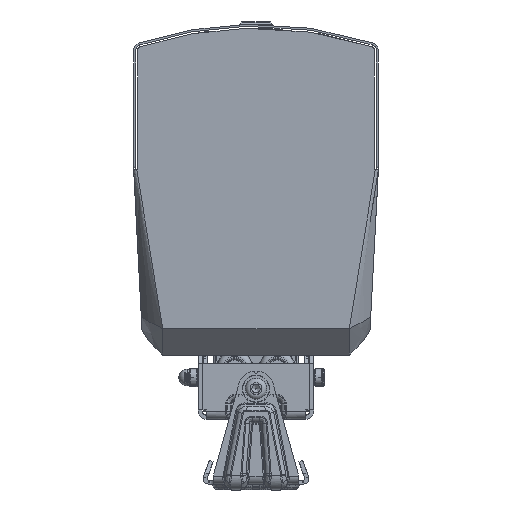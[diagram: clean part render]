
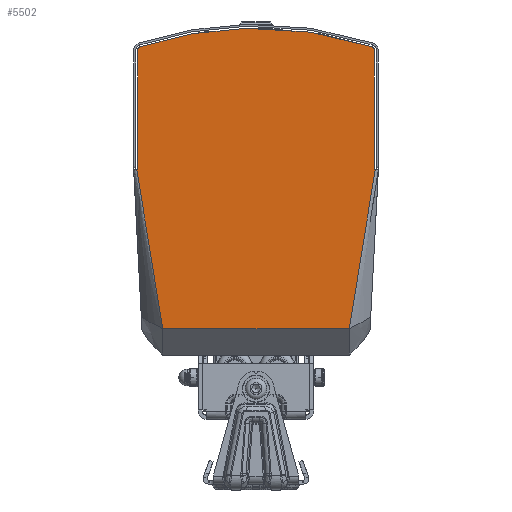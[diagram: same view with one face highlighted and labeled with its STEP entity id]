
A CAD part, front view. The second image highlights one B-rep face of the part: STEP entity #5502.
In plain terms, the highlighted planar face has unit normal (0, -0.999, -0.035).
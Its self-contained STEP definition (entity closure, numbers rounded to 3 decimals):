
#602 = DIRECTION ( 'NONE',  ( 0., 0.999, 0.035 ) ) ;
#847 = CARTESIAN_POINT ( 'NONE',  ( -87.436, -470.455, -130.151 ) ) ;
#1048 =( BOUNDED_CURVE ( )  B_SPLINE_CURVE ( 3, ( #73136, #79514, #8656, #34557 ),
 .UNSPECIFIED., .F., .T. ) 
 B_SPLINE_CURVE_WITH_KNOTS ( ( 4, 4 ),
 ( 1.571, 2.825 ),
 .UNSPECIFIED. ) 
 CURVE ( )  GEOMETRIC_REPRESENTATION_ITEM ( )  RATIONAL_B_SPLINE_CURVE ( ( 1., 0.873, 0.873, 1. ) ) 
 REPRESENTATION_ITEM ( '' )  );
#2238 = AXIS2_PLACEMENT_3D ( 'NONE', #71435, #602, #45585 ) ;
#2493 = ORIENTED_EDGE ( 'NONE', *, *, #74771, .F. ) ;
#4929 = VERTEX_POINT ( 'NONE', #11447 ) ;
#5502 = ADVANCED_FACE ( 'NONE', ( #78658 ), #71852, .F. ) ;
#5732 = CARTESIAN_POINT ( 'NONE',  ( -89.5, -474.35, -18.605 ) ) ;
#5956 = CARTESIAN_POINT ( 'NONE',  ( -77.958, -468.362, -190.098 ) ) ;
#6079 = VERTEX_POINT ( 'NONE', #61359 ) ;
#6258 = EDGE_CURVE ( 'NONE', #61121, #17034, #78612, .T. ) ;
#6328 = EDGE_CURVE ( 'NONE', #4929, #61121, #29349, .T. ) ;
#6792 = ORIENTED_EDGE ( 'NONE', *, *, #78260, .F. ) ;
#7836 = CARTESIAN_POINT ( 'NONE',  ( -30.061, -475.063, 1.8 ) ) ;
#8051 = VERTEX_POINT ( 'NONE', #49313 ) ;
#8073 = EDGE_CURVE ( 'NONE', #47333, #16000, #40109, .T. ) ;
#8654 = LINE ( 'NONE', #34555, #36024 ) ;
#8656 = CARTESIAN_POINT ( 'NONE',  ( 88.619, -474.393, -17.39 ) ) ;
#9510 = DIRECTION ( 'NONE',  ( 0., -0.035, 0.999 ) ) ;
#9670 = VECTOR ( 'NONE', #33837, 1000. ) ;
#9740 = CARTESIAN_POINT ( 'NONE',  ( -89.5, -471.159, -110. ) ) ;
#10075 = DIRECTION ( 'NONE',  ( 1., 0., 0. ) ) ;
#10860 = EDGE_CURVE ( 'NONE', #54740, #8051, #24430, .T. ) ;
#11251 = CARTESIAN_POINT ( 'NONE',  ( -87.193, -474.409, -16.922 ) ) ;
#11447 = CARTESIAN_POINT ( 'NONE',  ( 87.193, -474.409, -16.922 ) ) ;
#13002 = EDGE_CURVE ( 'NONE', #16000, #16768, #72406, .T. ) ;
#13132 = CARTESIAN_POINT ( 'NONE',  ( -70.5, -466.968, -230. ) ) ;
#15988 = LINE ( 'NONE', #74554, #83812 ) ;
#16000 = VERTEX_POINT ( 'NONE', #42198 ) ;
#16768 = VERTEX_POINT ( 'NONE', #22578 ) ;
#17034 = VERTEX_POINT ( 'NONE', #18242 ) ;
#18084 = ORIENTED_EDGE ( 'NONE', *, *, #6258, .T. ) ;
#18242 = CARTESIAN_POINT ( 'NONE',  ( -89.5, -474.298, -20.106 ) ) ;
#19154 = CARTESIAN_POINT ( 'NONE',  ( 78.271, -468.362, -190.097 ) ) ;
#19689 = CARTESIAN_POINT ( 'NONE',  ( 30.061, -475.063, 1.8 ) ) ;
#22578 = CARTESIAN_POINT ( 'NONE',  ( 70.5, -466.968, -230. ) ) ;
#24430 = LINE ( 'NONE', #32039, #65145 ) ;
#24794 = EDGE_LOOP ( 'NONE', ( #55104, #53279, #80677, #6792, #2493, #26798, #72129, #53497, #18084, #65511 ) ) ;
#25694 = EDGE_CURVE ( 'NONE', #35435, #17034, #8654, .T. ) ;
#26519 = CARTESIAN_POINT ( 'NONE',  ( -87.193, -474.409, -16.922 ) ) ;
#26798 = ORIENTED_EDGE ( 'NONE', *, *, #10860, .F. ) ;
#29349 =( BOUNDED_CURVE ( )  B_SPLINE_CURVE ( 3, ( #70615, #19689, #7836, #26519 ),
 .UNSPECIFIED., .F., .T. ) 
 B_SPLINE_CURVE_WITH_KNOTS ( ( 4, 4 ),
 ( 2.825, 3.458 ),
 .UNSPECIFIED. ) 
 CURVE ( )  GEOMETRIC_REPRESENTATION_ITEM ( )  RATIONAL_B_SPLINE_CURVE ( ( 1., 0.967, 0.967, 1. ) ) 
 REPRESENTATION_ITEM ( '' )  );
#31424 = CARTESIAN_POINT ( 'NONE',  ( -84.474, -469.755, -150.201 ) ) ;
#31517 = CARTESIAN_POINT ( 'NONE',  ( -90.1, -471.159, -110. ) ) ;
#32039 = CARTESIAN_POINT ( 'NONE',  ( 89.5, -471.297, -106.038 ) ) ;
#33501 = CARTESIAN_POINT ( 'NONE',  ( 89.5, -474.298, -20.106 ) ) ;
#33837 = DIRECTION ( 'NONE',  ( 1., 0., 0. ) ) ;
#34555 = CARTESIAN_POINT ( 'NONE',  ( -89.5, -471.297, -106.038 ) ) ;
#34557 = CARTESIAN_POINT ( 'NONE',  ( 87.193, -474.409, -16.922 ) ) ;
#35435 = VERTEX_POINT ( 'NONE', #9740 ) ;
#36024 = VECTOR ( 'NONE', #9510, 1000. ) ;
#37180 = EDGE_CURVE ( 'NONE', #54740, #4929, #1048, .T. ) ;
#39166 = LINE ( 'NONE', #50662, #68621 ) ;
#40109 = B_SPLINE_CURVE_WITH_KNOTS ( 'NONE', 3,
 ( #46249, #847, #31424, #5956, #52187, #13132 ),
 .UNSPECIFIED., .F., .F.,
 ( 4, 2, 4 ),
 ( 0., 0.5, 1. ),
 .UNSPECIFIED. ) ;
#41462 = CARTESIAN_POINT ( 'NONE',  ( -92.5, -466.968, -230. ) ) ;
#42198 = CARTESIAN_POINT ( 'NONE',  ( -70.5, -466.968, -230. ) ) ;
#43928 = CARTESIAN_POINT ( 'NONE',  ( -89.5, -474.298, -20.106 ) ) ;
#45585 = DIRECTION ( 'NONE',  ( 0., -0.035, 0.999 ) ) ;
#46249 = CARTESIAN_POINT ( 'NONE',  ( -90.1, -471.159, -110. ) ) ;
#47333 = VERTEX_POINT ( 'NONE', #31517 ) ;
#49313 = CARTESIAN_POINT ( 'NONE',  ( 89.5, -471.159, -110. ) ) ;
#50662 = CARTESIAN_POINT ( 'NONE',  ( -92.5, -471.159, -110. ) ) ;
#50725 = CARTESIAN_POINT ( 'NONE',  ( -88.619, -474.393, -17.39 ) ) ;
#51750 = EDGE_CURVE ( 'NONE', #47333, #35435, #39166, .T. ) ;
#52187 = CARTESIAN_POINT ( 'NONE',  ( -74.386, -467.665, -210.048 ) ) ;
#53279 = ORIENTED_EDGE ( 'NONE', *, *, #8073, .T. ) ;
#53497 = ORIENTED_EDGE ( 'NONE', *, *, #6328, .T. ) ;
#54740 = VERTEX_POINT ( 'NONE', #33501 ) ;
#55104 = ORIENTED_EDGE ( 'NONE', *, *, #51750, .F. ) ;
#61121 = VERTEX_POINT ( 'NONE', #77317 ) ;
#61359 = CARTESIAN_POINT ( 'NONE',  ( 90.1, -471.159, -110. ) ) ;
#65145 = VECTOR ( 'NONE', #76178, 1000. ) ;
#65511 = ORIENTED_EDGE ( 'NONE', *, *, #25694, .F. ) ;
#68621 = VECTOR ( 'NONE', #76108, 1000. ) ;
#70082 = CARTESIAN_POINT ( 'NONE',  ( 84.771, -469.751, -150.301 ) ) ;
#70615 = CARTESIAN_POINT ( 'NONE',  ( 87.193, -474.409, -16.922 ) ) ;
#71435 = CARTESIAN_POINT ( 'NONE',  ( -92.5, -466.27, -250. ) ) ;
#71446 = B_SPLINE_CURVE_WITH_KNOTS ( 'NONE', 3,
 ( #77300, #70082, #19154, #83663 ),
 .UNSPECIFIED., .F., .F.,
 ( 4, 4 ),
 ( 0., 1. ),
 .UNSPECIFIED. ) ;
#71852 = PLANE ( 'NONE',  #2238 ) ;
#72129 = ORIENTED_EDGE ( 'NONE', *, *, #37180, .T. ) ;
#72406 = LINE ( 'NONE', #41462, #9670 ) ;
#73136 = CARTESIAN_POINT ( 'NONE',  ( 89.5, -474.298, -20.106 ) ) ;
#74554 = CARTESIAN_POINT ( 'NONE',  ( 92.5, -471.159, -110. ) ) ;
#74771 = EDGE_CURVE ( 'NONE', #8051, #6079, #15988, .T. ) ;
#76108 = DIRECTION ( 'NONE',  ( 1., 0., 0. ) ) ;
#76178 = DIRECTION ( 'NONE',  ( 0., 0.035, -0.999 ) ) ;
#77300 = CARTESIAN_POINT ( 'NONE',  ( 90.1, -471.159, -110. ) ) ;
#77317 = CARTESIAN_POINT ( 'NONE',  ( -87.193, -474.409, -16.922 ) ) ;
#78260 = EDGE_CURVE ( 'NONE', #6079, #16768, #71446, .T. ) ;
#78612 =( BOUNDED_CURVE ( )  B_SPLINE_CURVE ( 3, ( #11251, #50725, #5732, #43928 ),
 .UNSPECIFIED., .F., .T. ) 
 B_SPLINE_CURVE_WITH_KNOTS ( ( 4, 4 ),
 ( 3.458, 4.712 ),
 .UNSPECIFIED. ) 
 CURVE ( )  GEOMETRIC_REPRESENTATION_ITEM ( )  RATIONAL_B_SPLINE_CURVE ( ( 1., 0.873, 0.873, 1. ) ) 
 REPRESENTATION_ITEM ( '' )  );
#78658 = FACE_OUTER_BOUND ( 'NONE', #24794, .T. ) ;
#79514 = CARTESIAN_POINT ( 'NONE',  ( 89.5, -474.35, -18.605 ) ) ;
#80677 = ORIENTED_EDGE ( 'NONE', *, *, #13002, .T. ) ;
#83663 = CARTESIAN_POINT ( 'NONE',  ( 70.5, -466.968, -230. ) ) ;
#83812 = VECTOR ( 'NONE', #10075, 1000. ) ;
